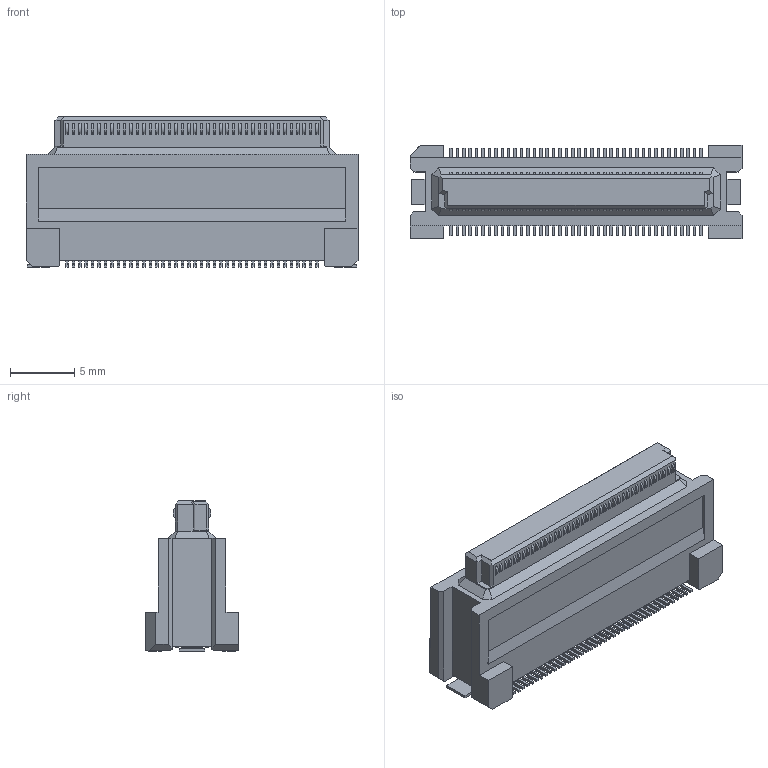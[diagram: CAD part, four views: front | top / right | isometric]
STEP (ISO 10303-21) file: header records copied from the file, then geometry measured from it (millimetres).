
FILE_DESCRIPTION(('Creo Elements/Direct Modeling STEP Export'),'2;1');
FILE_NAME('DY10-080FS-3.stp','2017-11-28T 9:34:43',(''),(''),'Creo Elements/Direct Modeling STEP processor for AP214 (Solid Model)','Creo Elements/Direct Modeling 19.0F 14-Feb-2017 (C) Parametric Technology GmbH','');
FILE_SCHEMA(('AUTOMOTIVE_DESIGN { 1 0 10303 214 1 1 1 1 }'));
Length unit declared in the file: millimetre
Products named in the file (2): DY10-080FS-3
Assembly tree (1 placements, depth 2):
  DY10-080FS-3
    DY10-080FS-3
Bounding box: 25.9 x 7.3 x 11.73 mm (x, y, z)
Volume: 1183.5 mm3; surface area: 1160 mm2
Topology: 1 solids, 1 shells, 1190 faces, 3273 edges, 2170 vertices
Faces by surface type: plane 856, cylinder 326, bspline 8
Entity records: 38103 total; most frequent: CARTESIAN_POINT 7786, ORIENTED_EDGE 6546, DIRECTION 5955, EDGE_CURVE 3273, VECTOR 2597, LINE 2597, VERTEX_POINT 2170, AXIS2_PLACEMENT_3D 1679
